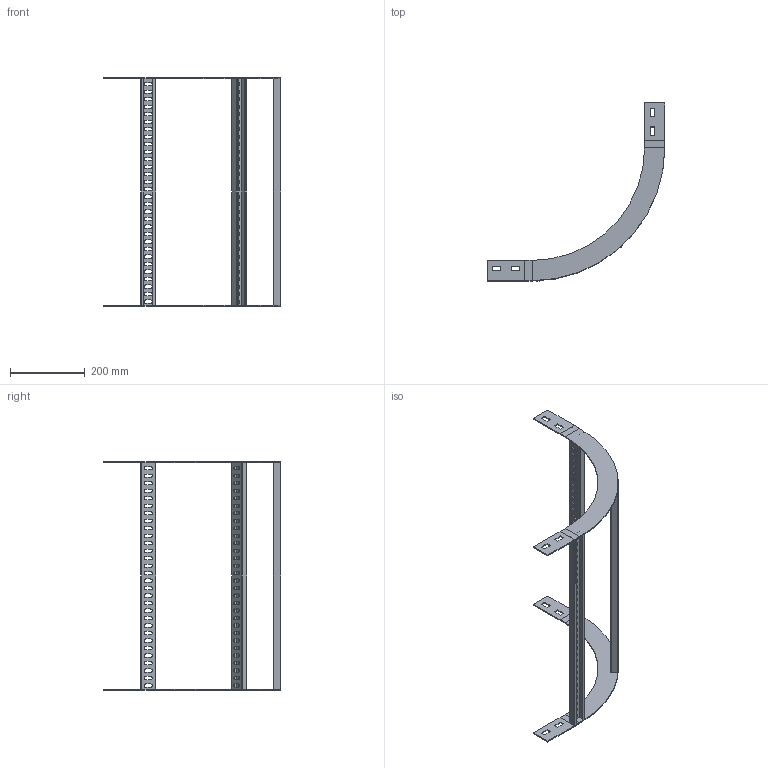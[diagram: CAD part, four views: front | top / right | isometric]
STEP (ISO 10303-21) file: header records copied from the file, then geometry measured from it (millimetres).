
FILE_DESCRIPTION(/* description */ ('','CAx-IF Rec.Pracs.---Representation and Presentation of Product Manufacturing Information (PMI)---4.0---2014-10-13'),/* implementation_level */ '2;1');
FILE_NAME(/* name */ 'Eurostrut_EIR60-600-90-300_Inside Riser for Cable Ladder ECL.step',/* time_stamp */ '2026-09-03T10:04:19+02:00',/* author */ (''),/* organization */ (''),/* preprocessor_version */ 'ST-DEVELOPER v20.1',/* originating_system */ 'Autodesk Revit 2027 27.2.0.39',/* authorisation */ '');
FILE_SCHEMA (('AP242_MANAGED_MODEL_BASED_3D_ENGINEERING_MIM_LF { 1 0 10303 442 2 1 4 }'));
Length unit declared in the file: millimetre
Products named in the file (8): TopLevelAssembly; Sweep; Extrusion; Extrusion_1; Extrusion_2; Extrusion_3; Eurostrut_Cable Ladder_Rung_V2 Vertical_Array EIR_Slotted; Eurostrut_Cable Ladder_Accessory End_54-94-142
Assembly tree (10 placements, depth 2):
  TopLevelAssembly
    Sweep
    Extrusion
    Extrusion_1
    Extrusion_2
    Extrusion_3
    Eurostrut_Cable Ladder_Rung_V2 Vertical_Array EIR_Slotted
    Eurostrut_Cable Ladder_Accessory End_54-94-142  x4
Bounding box: 474 x 474 x 611 mm (x, y, z)
Volume: 452262.5 mm3; surface area: 471926.7 mm2
Topology: 13 solids, 13 shells, 506 faces, 1440 edges, 960 vertices
Faces by surface type: plane 310, bspline 180, cylinder 16
Entity records: 20842 total; most frequent: CARTESIAN_POINT 8282, ORIENTED_EDGE 2664, DIRECTION 2328, EDGE_CURVE 1332, LINE 940, VECTOR 940, VERTEX_POINT 888, AXIS2_PLACEMENT_3D 694
